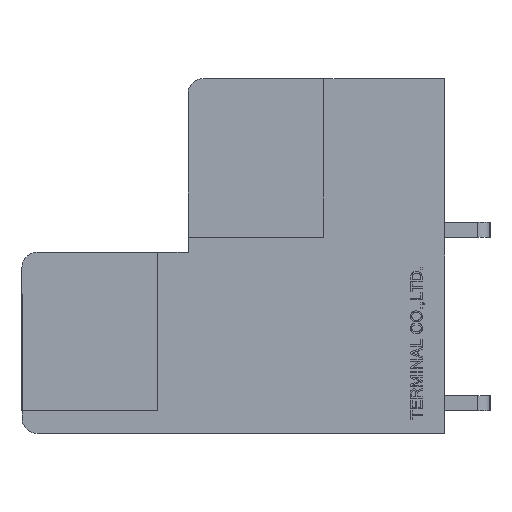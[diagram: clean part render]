
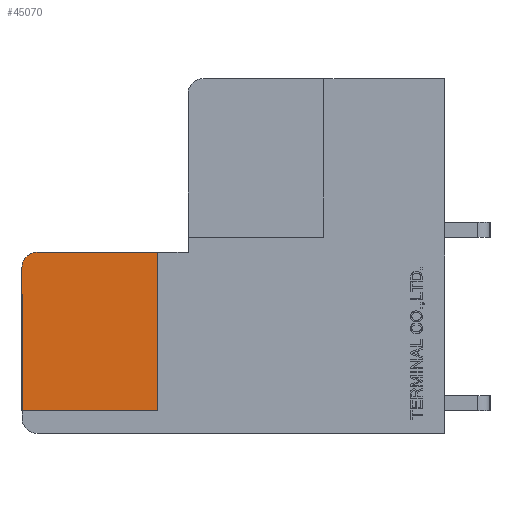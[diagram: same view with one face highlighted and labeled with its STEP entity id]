
A CAD part, left-side view. The second image highlights one B-rep face of the part: STEP entity #45070.
In plain terms, the highlighted planar face has unit normal (-1, 0, 0).
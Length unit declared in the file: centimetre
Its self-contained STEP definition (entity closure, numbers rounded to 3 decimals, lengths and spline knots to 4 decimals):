
#557=CIRCLE('',#76949,0.1);
#2683=VERTEX_POINT('',#60002);
#2684=VERTEX_POINT('',#60003);
#2687=VERTEX_POINT('',#60011);
#2689=VERTEX_POINT('',#60017);
#2690=VERTEX_POINT('',#60019);
#7420=VECTOR('',#50145,1.);
#7424=VECTOR('',#50150,1.);
#7427=VECTOR('',#50154,1.);
#7428=VECTOR('',#50157,1.);
#12761=LINE('',#60001,#7420);
#12765=LINE('',#60010,#7424);
#12768=LINE('',#60016,#7427);
#12769=LINE('',#60020,#7428);
#18206=EDGE_CURVE('',#2683,#2684,#12761,.T.);
#18210=EDGE_CURVE('',#2687,#2683,#12765,.T.);
#18213=EDGE_CURVE('',#2689,#2684,#12768,.T.);
#18214=EDGE_CURVE('',#2690,#2689,#557,.T.);
#18215=EDGE_CURVE('',#2687,#2690,#12769,.T.);
#25620=ORIENTED_EDGE('',*,*,#18210,.T.);
#25621=ORIENTED_EDGE('',*,*,#18206,.T.);
#25622=ORIENTED_EDGE('',*,*,#18213,.F.);
#25623=ORIENTED_EDGE('',*,*,#18214,.F.);
#25624=ORIENTED_EDGE('',*,*,#18215,.F.);
#39178=EDGE_LOOP('',(#25620,#25621,#25622,#25623,#25624));
#42126=FACE_BOUND('',#39178,.T.);
#45070=ADVANCED_FACE('',(#42126),#47737,.F.);
#47737=PLANE('',#76948);
#50145=DIRECTION('',(0.,0.,1.));
#50150=DIRECTION('',(0.,-1.,0.));
#50153=DIRECTION('',(1.,0.,0.));
#50154=DIRECTION('',(0.,-1.,0.));
#50155=DIRECTION('',(1.,0.,0.));
#50156=DIRECTION('',(0.,0.,-0.1));
#50157=DIRECTION('',(0.,0.,1.));
#60001=CARTESIAN_POINT('',(-1.76,-0.145,0.0375));
#60002=CARTESIAN_POINT('',(-1.76,-0.145,-0.45));
#60003=CARTESIAN_POINT('',(-1.76,-0.145,0.6));
#60010=CARTESIAN_POINT('',(-1.76,-0.1777,-0.45));
#60011=CARTESIAN_POINT('',(-1.76,0.755,-0.45));
#60015=CARTESIAN_POINT('',(-1.76,-0.6604,0.));
#60016=CARTESIAN_POINT('',(-1.76,0.655,0.6));
#60017=CARTESIAN_POINT('',(-1.76,0.655,0.6));
#60018=CARTESIAN_POINT('',(-1.76,0.655,0.5));
#60019=CARTESIAN_POINT('',(-1.76,0.755,0.5));
#60020=CARTESIAN_POINT('',(-1.76,0.755,-0.5));
#76948=AXIS2_PLACEMENT_3D('',#60015,#50153,$);
#76949=AXIS2_PLACEMENT_3D('',#60018,#50155,#50156);
